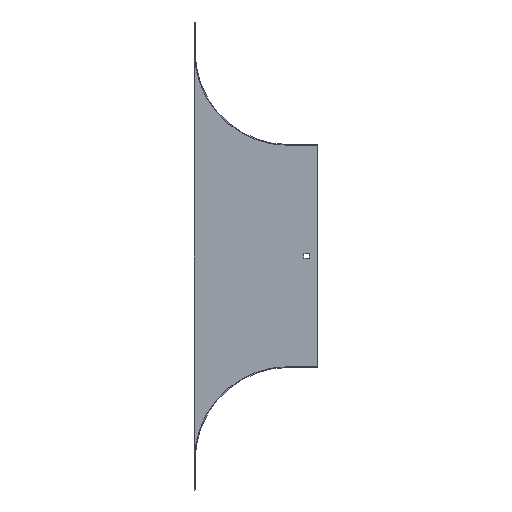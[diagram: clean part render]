
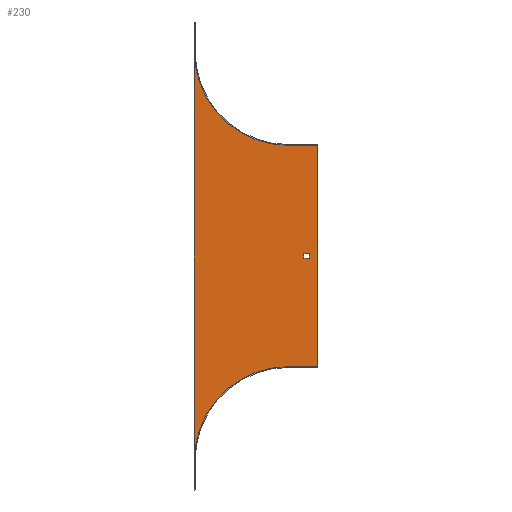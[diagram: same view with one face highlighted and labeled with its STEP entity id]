
A CAD part, front view. The second image highlights one B-rep face of the part: STEP entity #230.
In plain terms, the highlighted planar face has unit normal (0, -1, 0).
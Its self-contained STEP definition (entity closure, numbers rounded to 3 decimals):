
#8 = DIRECTION ( 'NONE',  ( 0., -1., 0. ) ) ;
#24 = ORIENTED_EDGE ( 'NONE', *, *, #363, .F. ) ;
#42 = CARTESIAN_POINT ( 'NONE',  ( 0., -1., 0. ) ) ;
#65 = CARTESIAN_POINT ( 'NONE',  ( 40., -1., -427. ) ) ;
#73 = VECTOR ( 'NONE', #275, 1000. ) ;
#92 = CARTESIAN_POINT ( 'NONE',  ( -127., -1., -554. ) ) ;
#93 = VERTEX_POINT ( 'NONE', #370 ) ;
#108 = ORIENTED_EDGE ( 'NONE', *, *, #544, .F. ) ;
#109 = LINE ( 'NONE', #228, #274 ) ;
#115 = FACE_OUTER_BOUND ( 'NONE', #133, .T. ) ;
#127 = CARTESIAN_POINT ( 'NONE',  ( 21.5, -1., -274. ) ) ;
#129 = EDGE_CURVE ( 'NONE', #266, #548, #109, .T. ) ;
#132 = CARTESIAN_POINT ( 'NONE',  ( 21.5, -1., -280. ) ) ;
#133 = EDGE_LOOP ( 'NONE', ( #192, #24, #547, #633, #264, #208 ) ) ;
#169 = CARTESIAN_POINT ( 'NONE',  ( -127., -1., -594. ) ) ;
#174 = EDGE_CURVE ( 'NONE', #411, #179, #503, .T. ) ;
#179 = VERTEX_POINT ( 'NONE', #499 ) ;
#192 = ORIENTED_EDGE ( 'NONE', *, *, #554, .F. ) ;
#206 = DIRECTION ( 'NONE',  ( 0., 0., -1. ) ) ;
#208 = ORIENTED_EDGE ( 'NONE', *, *, #174, .F. ) ;
#221 = DIRECTION ( 'NONE',  ( 0., 0., -1. ) ) ;
#228 = CARTESIAN_POINT ( 'NONE',  ( 0., -1., -280. ) ) ;
#229 = LINE ( 'NONE', #448, #683 ) ;
#230 = ADVANCED_FACE ( 'NONE', ( #279, #115 ), #388, .T. ) ;
#237 = LINE ( 'NONE', #641, #519 ) ;
#247 = CARTESIAN_POINT ( 'NONE',  ( 0., -1., -427. ) ) ;
#261 = VERTEX_POINT ( 'NONE', #65 ) ;
#262 = LINE ( 'NONE', #663, #326 ) ;
#264 = ORIENTED_EDGE ( 'NONE', *, *, #432, .F. ) ;
#266 = VERTEX_POINT ( 'NONE', #132 ) ;
#274 = VECTOR ( 'NONE', #567, 1000. ) ;
#275 = DIRECTION ( 'NONE',  ( -1., 0., 0. ) ) ;
#279 = FACE_BOUND ( 'NONE', #297, .T. ) ;
#280 = LINE ( 'NONE', #459, #529 ) ;
#281 = EDGE_CURVE ( 'NONE', #518, #612, #237, .T. ) ;
#290 = VERTEX_POINT ( 'NONE', #127 ) ;
#291 = CARTESIAN_POINT ( 'NONE',  ( 28.5, -1., -280. ) ) ;
#297 = EDGE_LOOP ( 'NONE', ( #434, #108, #347, #305 ) ) ;
#303 = DIRECTION ( 'NONE',  ( 0., 0., 1. ) ) ;
#305 = ORIENTED_EDGE ( 'NONE', *, *, #129, .F. ) ;
#325 = DIRECTION ( 'NONE',  ( 0., 0., -1. ) ) ;
#326 = VECTOR ( 'NONE', #206, 1000. ) ;
#328 = AXIS2_PLACEMENT_3D ( 'NONE', #618, #8, #221 ) ;
#333 = DIRECTION ( 'NONE',  ( 0., 0., -1. ) ) ;
#347 = ORIENTED_EDGE ( 'NONE', *, *, #665, .F. ) ;
#363 = EDGE_CURVE ( 'NONE', #261, #590, #443, .T. ) ;
#366 = CIRCLE ( 'NONE', #566, 127. ) ;
#370 = CARTESIAN_POINT ( 'NONE',  ( 28.5, -1., -274. ) ) ;
#374 = DIRECTION ( 'NONE',  ( 0., -1., 0. ) ) ;
#388 = PLANE ( 'NONE',  #328 ) ;
#391 = DIRECTION ( 'NONE',  ( 0., -1., 0. ) ) ;
#397 = CARTESIAN_POINT ( 'NONE',  ( 0., -1., -127. ) ) ;
#411 = VERTEX_POINT ( 'NONE', #92 ) ;
#432 = EDGE_CURVE ( 'NONE', #179, #518, #366, .T. ) ;
#434 = ORIENTED_EDGE ( 'NONE', *, *, #722, .F. ) ;
#443 = LINE ( 'NONE', #247, #73 ) ;
#448 = CARTESIAN_POINT ( 'NONE',  ( 40., -1., -126. ) ) ;
#450 = EDGE_CURVE ( 'NONE', #612, #261, #229, .T. ) ;
#451 = DIRECTION ( 'NONE',  ( -1., 0., 0. ) ) ;
#457 = CIRCLE ( 'NONE', #517, 127. ) ;
#459 = CARTESIAN_POINT ( 'NONE',  ( 0., -1., -274. ) ) ;
#498 = VECTOR ( 'NONE', #303, 1000. ) ;
#499 = CARTESIAN_POINT ( 'NONE',  ( -127., -1., 0. ) ) ;
#503 = LINE ( 'NONE', #169, #638 ) ;
#517 = AXIS2_PLACEMENT_3D ( 'NONE', #622, #391, #333 ) ;
#518 = VERTEX_POINT ( 'NONE', #397 ) ;
#519 = VECTOR ( 'NONE', #569, 1000. ) ;
#529 = VECTOR ( 'NONE', #451, 1000. ) ;
#534 = CARTESIAN_POINT ( 'NONE',  ( 40., -1., -127. ) ) ;
#544 = EDGE_CURVE ( 'NONE', #93, #290, #280, .T. ) ;
#547 = ORIENTED_EDGE ( 'NONE', *, *, #450, .F. ) ;
#548 = VERTEX_POINT ( 'NONE', #291 ) ;
#554 = EDGE_CURVE ( 'NONE', #590, #411, #457, .T. ) ;
#566 = AXIS2_PLACEMENT_3D ( 'NONE', #42, #374, #325 ) ;
#567 = DIRECTION ( 'NONE',  ( 1., 0., 0. ) ) ;
#569 = DIRECTION ( 'NONE',  ( 1., 0., 0. ) ) ;
#586 = CARTESIAN_POINT ( 'NONE',  ( 28.5, -1., 0. ) ) ;
#590 = VERTEX_POINT ( 'NONE', #704 ) ;
#612 = VERTEX_POINT ( 'NONE', #534 ) ;
#618 = CARTESIAN_POINT ( 'NONE',  ( 0., -1., 0. ) ) ;
#622 = CARTESIAN_POINT ( 'NONE',  ( 0., -1., -554. ) ) ;
#623 = DIRECTION ( 'NONE',  ( 0., 0., 1. ) ) ;
#633 = ORIENTED_EDGE ( 'NONE', *, *, #281, .F. ) ;
#638 = VECTOR ( 'NONE', #623, 1000. ) ;
#641 = CARTESIAN_POINT ( 'NONE',  ( 0., -1., -127. ) ) ;
#663 = CARTESIAN_POINT ( 'NONE',  ( 21.5, -1., 0. ) ) ;
#665 = EDGE_CURVE ( 'NONE', #548, #93, #691, .T. ) ;
#678 = DIRECTION ( 'NONE',  ( 0., 0., -1. ) ) ;
#683 = VECTOR ( 'NONE', #678, 1000. ) ;
#691 = LINE ( 'NONE', #586, #498 ) ;
#704 = CARTESIAN_POINT ( 'NONE',  ( 0., -1., -427. ) ) ;
#722 = EDGE_CURVE ( 'NONE', #290, #266, #262, .T. ) ;
